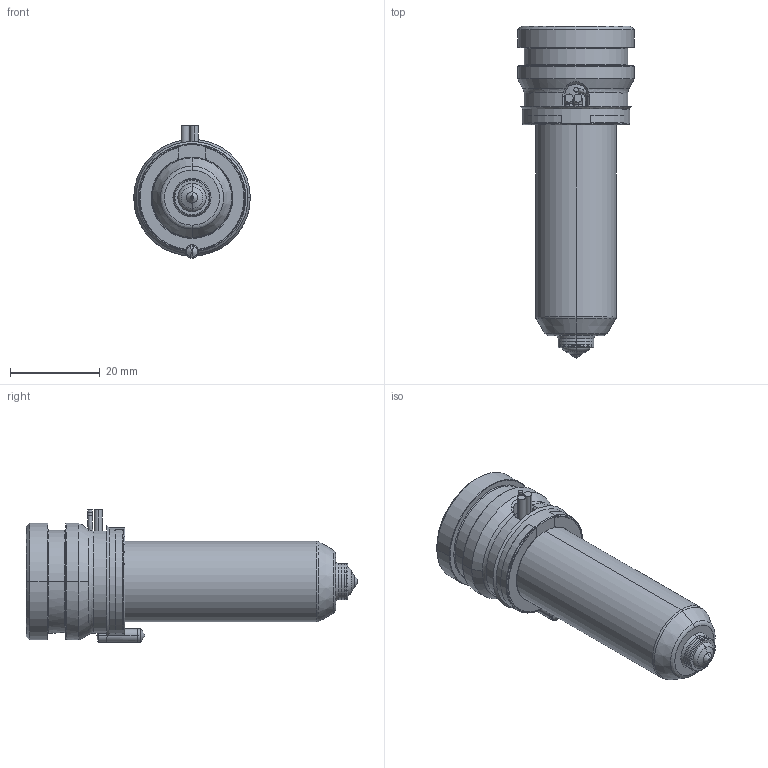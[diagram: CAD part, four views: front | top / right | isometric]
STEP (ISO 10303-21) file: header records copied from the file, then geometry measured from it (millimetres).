
FILE_DESCRIPTION((''),'2;1');
FILE_NAME('TH18056-A-1-PK-JG','2023-12-14T',('umhib'),('Thermoplay S.p.A.'),'PRO/ENGINEER BY PARAMETRIC TECHNOLOGY CORPORATION, 2017170','PRO/ENGINEER BY PARAMETRIC TECHNOLOGY CORPORATION, 2017170','');
FILE_SCHEMA(('CONFIG_CONTROL_DESIGN'));
Length unit declared in the file: millimetre
Products named in the file (1): TH18056-A-1-PK-JG
Bounding box: 26 x 74 x 29.5 mm (x, y, z)
Volume: 16871.8 mm3; surface area: 12270.7 mm2
Topology: 1 solids, 2 shells, 396 faces, 1032 edges, 641 vertices
Faces by surface type: cylinder 151, plane 85, cone 66, torus 56, bspline 24, sphere 12, extrusion 2
Entity records: 18009 total; most frequent: CARTESIAN_POINT 6097, ORIENTED_EDGE 2040, DIRECTION 2023, EDGE_CURVE 1022, AXIS2_PLACEMENT_3D 812, VERTEX_POINT 641, CIRCLE 441, EDGE_LOOP 416
